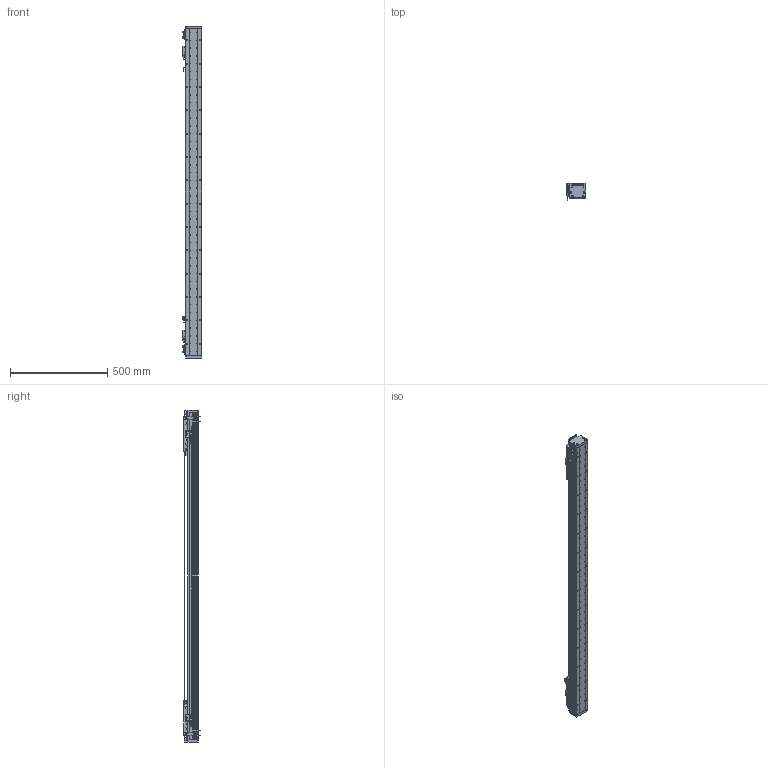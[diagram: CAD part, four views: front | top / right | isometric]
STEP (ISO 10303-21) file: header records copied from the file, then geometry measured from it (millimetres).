
FILE_DESCRIPTION (( 'STEP AP203' ), '1' );
FILE_NAME ('DA-A82-2-B2-T1260-C010-0.2 眻盄萇儂.STEP', '2025-08-13T02:34:23', ( '' ), ( '' ), 'SwSTEP 2.0', 'SolidWorks 2019', '' );
FILE_SCHEMA (( 'CONFIG_CONTROL_DESIGN' ));
Length unit declared in the file: millimetre
Products named in the file (29): IU-AU82-L-00 菁釱(L1680); 复件 六角薄螺母 M3^DA-A82-B2-T-C010-0.2-N 直线电机; 葩璃 PM-L25^DA-A82-B2-T-C010-0.2-N 眻盄萇儂; AU82-M 幗紩賑怢-1; 复件 DKW-GJ-XJ-00 防撞橡胶^DA-A82-B2-T-C010-0.2-N 直线电机; 复件 复件 复件 DA82 钢带盖板^DA-A82-B2-T-C010-0.2-N 直线电机(默认); 复件 复件 17517-0000-004-00  钢带压块^DA-A82-B2-T-C010-0.2-N 直线电机(默认); DA-A60-GYP-DMT-00 光电感应片^DA-A82-B2-T-C010-0.2-N 直线电机(默认); AU82-M-00 珨极趙賑雄怢啣; 复件 复件 17517-0000-003-00 钢带拉块^DA-A82-B2-T-C010-0.2-N 直线电机; 葩璃 DMT-010 1米m 0.2M^DA-A82-B2-T-C010-0.2-N 眻盄萇儂; 复件 XD-U-02  磁栅尺^DA-A82-B2-T-C010-0.2-N 直线电机; 复件 DA95-GT-T-00 底座钢轨^IU-AU82-L 底座导轨; 复件 BKM02-W040-C1-TP-DA-3.0 直线电机动子^DA-A82-B2-T-C010-0.2-N 直线电机; 葩璃 PM-T45^DA-A82-B2-T-C010-0.2-N 眻盄萇儂; 葩璃 BKM01-W040-TRL^DA-A82-B2-T-C010-0.2-N 眻盄萇儂; 葩璃 DA82-B2-DP-00 結え^AU82-M 幗紩賑怢; DA-A82-2-B2-T1260-C010-0.2 眻盄萇儂; AU82-HT-M-00 賑雄怢啣; IU-AU82-L 菁釱絳寢; 复件 复件 17517-0000-002-00 端板^DA-A82-B2-T-C010-0.2-N 直线电机; 复件 DA60-DMT-DTJ-00 读数头支架^DA-A82-B2-T-C010-0.2-N 直线电机; AU82-M 幗紩賑怢; AU82-M-00 珨极趙賑雄怢啣-1; 复件 DA95-B2-GT-00 滑块钢轨^AU82-M-00 一体化滑动台板; 复件 DA82-GYP-ZJ-00 中间光电感应片^DA-A82-B2-T-C010-0.2-N 直线电机; 复件 复件 DA82-XJ-00 缓冲橡胶^DA-A82-B2-T-C010-0.2-N 直线电机; 复件 纯铜油杯 6x6mm^AU82-M 滚珠滑台; 复件 DA82-GDZ-ZJ-00 中间光电固定座^DA-A82-B2-T-C010-0.2-N 直线电机
Assembly tree (61 placements, depth 4):
  DA-A82-2-B2-T1260-C010-0.2 眻盄萇儂
    IU-AU82-L 菁釱絳寢
      IU-AU82-L-00 菁釱(L1680)
      复件 DA95-GT-T-00 底座钢轨^IU-AU82-L 底座导轨  x2
    AU82-M 幗紩賑怢
      AU82-M-00 珨极趙賑雄怢啣
        AU82-HT-M-00 賑雄怢啣
        复件 DA95-B2-GT-00 滑块钢轨^AU82-M-00 一体化滑动台板  x4
      葩璃 DA82-B2-DP-00 結え^AU82-M 幗紩賑怢  x2
      复件 纯铜油杯 6x6mm^AU82-M 滚珠滑台  x2
    AU82-M 幗紩賑怢-1
      AU82-M-00 珨极趙賑雄怢啣-1
        AU82-HT-M-00 賑雄怢啣
        复件 DA95-B2-GT-00 滑块钢轨^AU82-M-00 一体化滑动台板  x4
      葩璃 DA82-B2-DP-00 結え^AU82-M 幗紩賑怢  x2
      复件 纯铜油杯 6x6mm^AU82-M 滚珠滑台  x2
    复件 BKM02-W040-C1-TP-DA-3.0 直线电机动子^DA-A82-B2-T-C010-0.2-N 直线电机  x2
    复件 DA60-DMT-DTJ-00 读数头支架^DA-A82-B2-T-C010-0.2-N 直线电机  x2
    葩璃 DMT-010 1米m 0.2M^DA-A82-B2-T-C010-0.2-N 眻盄萇儂  x2
    DA-A60-GYP-DMT-00 光电感应片^DA-A82-B2-T-C010-0.2-N 直线电机(默认)  x2
    复件 DA82-GDZ-ZJ-00 中间光电固定座^DA-A82-B2-T-C010-0.2-N 直线电机
    葩璃 PM-L25^DA-A82-B2-T-C010-0.2-N 眻盄萇儂
    复件 DA82-GYP-ZJ-00 中间光电感应片^DA-A82-B2-T-C010-0.2-N 直线电机
    复件 DKW-GJ-XJ-00 防撞橡胶^DA-A82-B2-T-C010-0.2-N 直线电机
    复件 复件 17517-0000-003-00 钢带拉块^DA-A82-B2-T-C010-0.2-N 直线电机  x2
    复件 复件 DA82-XJ-00 缓冲橡胶^DA-A82-B2-T-C010-0.2-N 直线电机  x2
    复件 复件 17517-0000-004-00  钢带压块^DA-A82-B2-T-C010-0.2-N 直线电机(默认)  x2
    复件 复件 17517-0000-002-00 端板^DA-A82-B2-T-C010-0.2-N 直线电机  x2
    复件 复件 复件 DA82 钢带盖板^DA-A82-B2-T-C010-0.2-N 直线电机(默认)
    葩璃 BKM01-W040-TRL^DA-A82-B2-T-C010-0.2-N 眻盄萇儂
    葩璃 PM-T45^DA-A82-B2-T-C010-0.2-N 眻盄萇儂  x4
    复件 XD-U-02  磁栅尺^DA-A82-B2-T-C010-0.2-N 直线电机
    复件 六角薄螺母 M3^DA-A82-B2-T-C010-0.2-N 直线电机  x8
Bounding box: 98.95 x 87.2 x 1708 mm (x, y, z)
Volume: 5355577.3 mm3; surface area: 1595964.6 mm2
Topology: 70 solids, 118 shells, 3425 faces, 8861 edges, 5510 vertices
Faces by surface type: cylinder 1579, plane 1354, cone 456, bspline 16, torus 16, sphere 4
Entity records: 71899 total; most frequent: CARTESIAN_POINT 15941, DIRECTION 11163, ORIENTED_EDGE 10504, EDGE_CURVE 5252, AXIS2_PLACEMENT_3D 4257, VERTEX_POINT 3414, EDGE_LOOP 2678, LINE 2649
